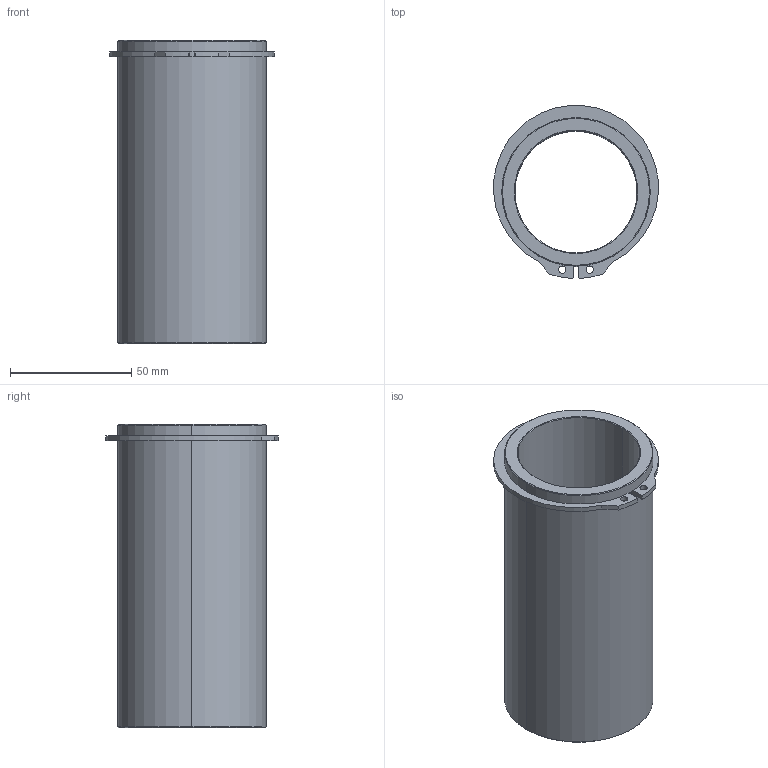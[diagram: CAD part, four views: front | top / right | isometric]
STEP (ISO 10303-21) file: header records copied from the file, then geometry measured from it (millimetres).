
FILE_DESCRIPTION((''),'2;1');
FILE_NAME('C13_050_125.stp','2008-12-17T16:10:33',(''),(''),'Mechanical Desktop 2009','Mechanical Desktop 2009',', , ');
FILE_SCHEMA(('CONFIG_CONTROL_DESIGN'));
Length unit declared in the file: millimetre
Products named in the file (2): Product; blmdl1
Assembly tree (1 placements, depth 2):
  Product
    blmdl1
Bounding box: 67.9 x 71.23 x 125 mm (x, y, z)
Volume: 120861.3 mm3; surface area: 48855.6 mm2
Topology: 2 solids, 2 shells, 34 faces, 76 edges, 48 vertices
Faces by surface type: cylinder 16, plane 10, cone 8
Entity records: 1075 total; most frequent: DIRECTION 188, CARTESIAN_POINT 160, ORIENTED_EDGE 152, AXIS2_PLACEMENT_3D 76, EDGE_CURVE 76, VERTEX_POINT 48, EDGE_LOOP 42, CIRCLE 40
